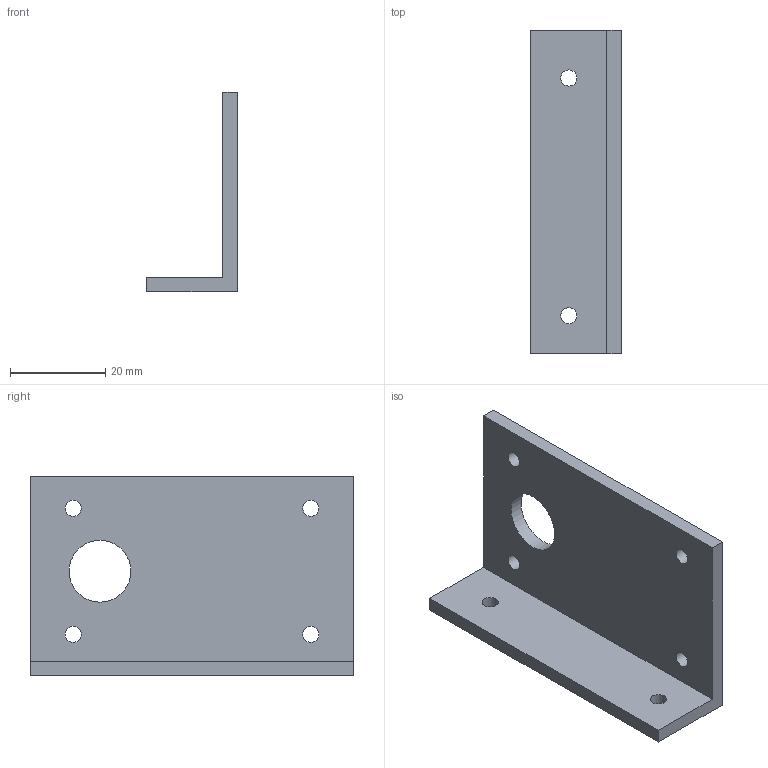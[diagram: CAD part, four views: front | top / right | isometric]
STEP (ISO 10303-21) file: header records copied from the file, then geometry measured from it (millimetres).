
FILE_DESCRIPTION(('FreeCAD Model'),'2;1');
FILE_NAME('Open CASCADE Shape Model','2026-10-12T22:45:25',('FreeCAD'),( 'FreeCAD'),'Open CASCADE STEP processor 7.8','FreeCAD','Unknown');
FILE_SCHEMA(('AUTOMOTIVE_DESIGN { 1 0 10303 214 1 1 1 1 }'));
Length unit declared in the file: millimetre
Products named in the file (1): Open CASCADE STEP translator 7.8 16
Bounding box: 19 x 68 x 42 mm (x, y, z)
Volume: 11270.4 mm3; surface area: 8584.4 mm2
Topology: 1 solids, 1 shells, 15 faces, 39 edges, 26 vertices
Faces by surface type: plane 8, cylinder 7
Full cylindrical faces by diameter (mm): 3.4 x6, 13 x1
Entity records: 505 total; most frequent: DIRECTION 85, CARTESIAN_POINT 81, ORIENTED_EDGE 78, EDGE_CURVE 39, AXIS2_PLACEMENT_3D 30, FACE_BOUND 29, EDGE_LOOP 29, VERTEX_POINT 26
